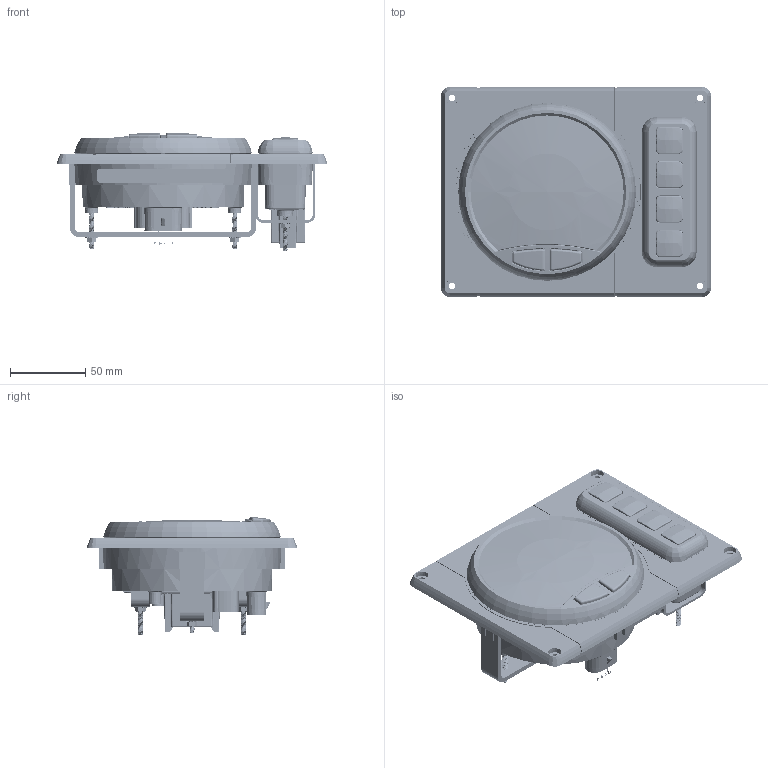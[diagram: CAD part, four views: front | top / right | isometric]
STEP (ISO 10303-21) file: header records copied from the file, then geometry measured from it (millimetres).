
FILE_DESCRIPTION((''),'2;1');
FILE_NAME('0_B25_PANEL_ASM','2018-12-21T',('ib46307'),(''),'PRO/ENGINEER BY PARAMETRIC TECHNOLOGY CORPORATION, 2015360','PRO/ENGINEER BY PARAMETRIC TECHNOLOGY CORPORATION, 2015360','');
FILE_SCHEMA(('CONFIG_CONTROL_DESIGN'));
Length unit declared in the file: inch
Products named in the file (114): 4571-11044-01_1; 4554-11000-01_1; 4540-11059-01_1; 3544-10082-01_1; 4540-11059-01_ASM_1_ASM; 5509-12274-01_1; 5527-12214-01_1; SHORT-ROUND-PIN_1; LONG-ROUND-PIN_1; 5527-12214-01_ASM_1_ASM; TSM-105-01-X-DH_1; SM-XXX_-A10_1; TSM-105-01-X-DH_ASM_1_ASM; 5825-15719-01_1; 5509-12274-02_ASM_1_ASM; 5509-12272-01_1; MANIFOLD_SOLID_BREP_314856; MANIFOLD_SOLID_BREP_315142; MANIFOLD_SOLID_BREP_315428; MANIFOLD_SOLID_BREP_315714; MANIFOLD_SOLID_BREP_316000; 5826-15440-01_1_ASM; KINGBRIGHT_APTD3216SURC_1; NONE-473_1; C-95-X_-02_SMT_ANY_ASM_1_ASM; K-XXX-XXX_6_5MM__2559__ANY_ASM_; NONE-2171_1; SSM-50D_CUSTOMER_MODEL_ANY_ASM__ASM; SSM-105-X-DV-A-K_ANY_ASM_1_ASM; SSM-105-X-DV-A-K_ASM_1_ASM; 5509-12272-02_ASM_1_ASM; 4582-10659-01_1; 5526-12255-01_1; 6460-00005-01_1; 5526-12256-01_1; 3544-10210-01_1; 2525-10054-02_1; 8000-01359-01_1; 4531-10655-01_1; 1539-10792-01_ASM_1_ASM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
Assembly tree (172 placements, depth 9):
  0_B25_PANEL_ASM
    8960-00191-01_ASM_1_ASM
      4571-11044-01_1
      PANEL_ASM
        4554-11000-01_1
        1539-10792-01_ASM_1_ASM
          4540-11059-01_ASM_1_ASM
            4540-11059-01_1
            3544-10082-01_1  x2
          5509-12274-02_ASM_1_ASM
            5509-12274-01_1
            5527-12214-01_ASM_1_ASM
              5527-12214-01_1
              SHORT-ROUND-PIN_1  x4
              LONG-ROUND-PIN_1  x4
            TSM-105-01-X-DH_ASM_1_ASM
              TSM-105-01-X-DH_1
              SM-XXX_-A10_1  x2
            5825-15719-01_1  x4
          5509-12272-02_ASM_1_ASM
            5509-12272-01_1
            5826-15440-01_1_ASM  x4
              MANIFOLD_SOLID_BREP_314856
              MANIFOLD_SOLID_BREP_315142
              MANIFOLD_SOLID_BREP_315428
              MANIFOLD_SOLID_BREP_315714
              MANIFOLD_SOLID_BREP_316000
            KINGBRIGHT_APTD3216SURC_1  x8
            SSM-105-X-DV-A-K_ASM_1_ASM
              SSM-105-X-DV-A-K_ANY_ASM_1_ASM
                C-95-X_-02_SMT_ANY_ASM_1_ASM  x10
                  NONE-473_1
                K-XXX-XXX_6_5MM__2559__ANY_ASM_
                SSM-50D_CUSTOMER_MODEL_ANY_ASM__ASM
                  NONE-2171_1
          4582-10659-01_1
          5526-12255-01_1
          6460-00005-01_1
          5526-12256-01_1
          3544-10210-01_1  x2
          2525-10054-02_1
          8000-01359-01_1
          4531-10655-01_1
        4522-11048-01_1  x2
        3560-10357-01_1  x2
        3531-10401-01_1  x2
      TACHO_ASM
        4554-11001-01_1
        8653-00103-01_ASM_1_ASM
          8750-30002-03_ASM_1_ASM
            8750-30002-03_1
            3544-10082-01_1  x2
            FES-5INCH-LABEL_1
          5509-12271-02_ASM_1_ASM
            5509-12271-01_1
            5551-11885-01_1
            5551-10542-03_1
            5527-11792-01_1
            5527-11738-01_1
            TOPLED_1  x11
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Bounding box: 180.01 x 139.95 x 78.85 mm (x, y, z)
Volume: 320130.9 mm3; surface area: 374188.7 mm2
Topology: 150 solids, 150 shells, 13428 faces, 36818 edges, 24009 vertices
Faces by surface type: plane 7925, cylinder 2707, cone 1014, bspline 1005, torus 565, sphere 181, extrusion 23, revolution 8
Entity records: 398539 total; most frequent: CARTESIAN_POINT 135806, ORIENTED_EDGE 56606, DIRECTION 50811, EDGE_CURVE 28303, VECTOR 18933, LINE 18910, VERTEX_POINT 18397, AXIS2_PLACEMENT_3D 15938
